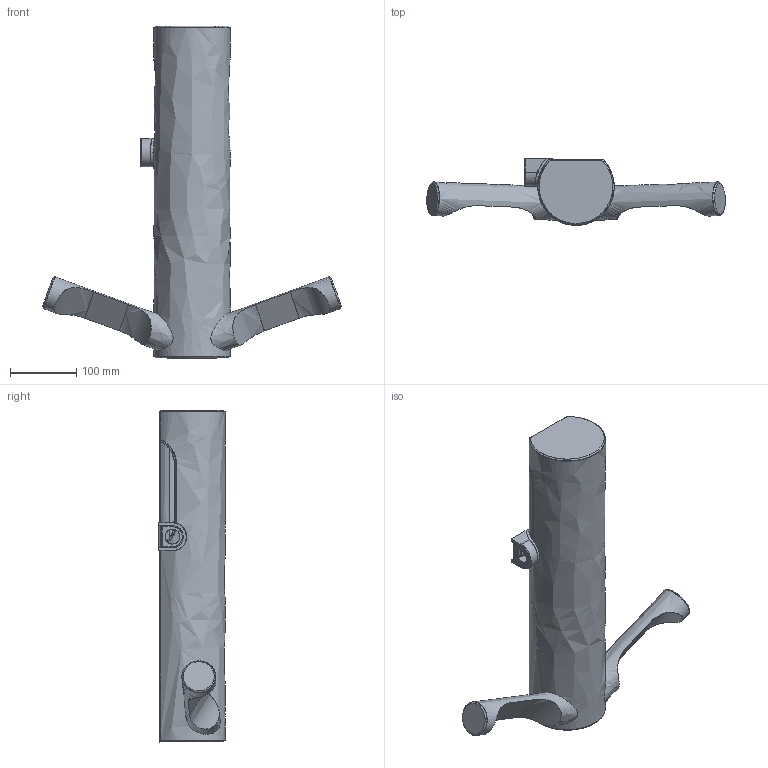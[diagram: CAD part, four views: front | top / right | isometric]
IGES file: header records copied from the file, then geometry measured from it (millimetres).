
Global section: file name: \\global.corp\data\local\MY\departments\VDI\MYVDI-Desktops\asamzaini\Desktop\9KJ CAD\9KJ 3D\SB-160005_AA - 9KJ WITH CONDUIT LEFT.igs; native system: NX V11.0; preprocessor: SIEMENS PLM Software NX 11.0; date: 20191113.142145; units: millimetre
Bounding box: 449.26 x 100 x 499.5 mm (x, y, z)
Surface area: 252795 mm2 (no closed solid volume)
Topology: 0 solids, 0 shells, 305 faces, 3409 edges, 4274 vertices
Faces by surface type: bspline 297, offset 8
